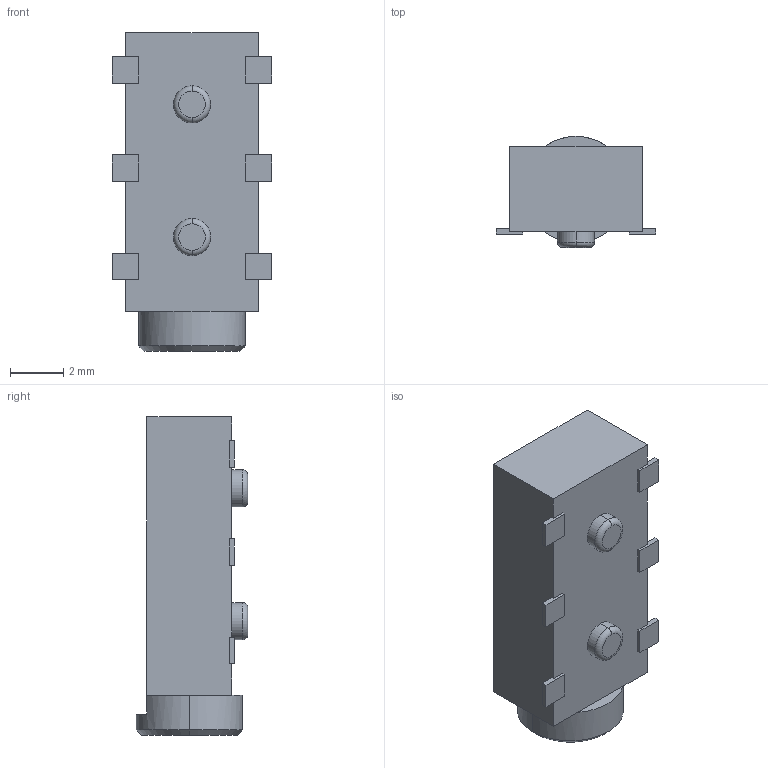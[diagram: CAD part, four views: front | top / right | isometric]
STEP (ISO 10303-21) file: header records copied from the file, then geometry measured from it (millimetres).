
FILE_DESCRIPTION((''),'2;1');
FILE_NAME('PHONEJACK-TG286D_PRT','2008-06-30T',('GRA'),(''),'PRO/ENGINEER BY PARAMETRIC TECHNOLOGY CORPORATION, 2006170','PRO/ENGINEER BY PARAMETRIC TECHNOLOGY CORPORATION, 2006170','');
FILE_SCHEMA(('CONFIG_CONTROL_DESIGN'));
Length unit declared in the file: millimetre
Products named in the file (1): PHONEJACK-TG286D_PRT
Bounding box: 6 x 4.2 x 12 mm (x, y, z)
Volume: 188.8 mm3; surface area: 237.5 mm2
Topology: 1 solids, 1 shells, 60 faces, 160 edges, 104 vertices
Faces by surface type: plane 48, cylinder 6, torus 4, cone 2
Entity records: 1884 total; most frequent: CARTESIAN_POINT 324, ORIENTED_EDGE 320, DIRECTION 306, EDGE_CURVE 160, VECTOR 134, LINE 134, VERTEX_POINT 104, AXIS2_PLACEMENT_3D 86
